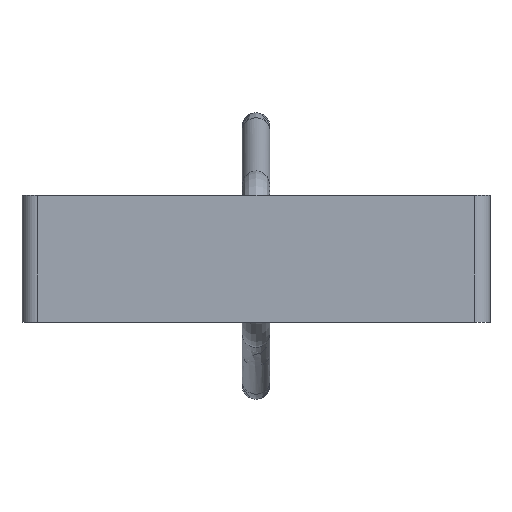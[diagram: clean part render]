
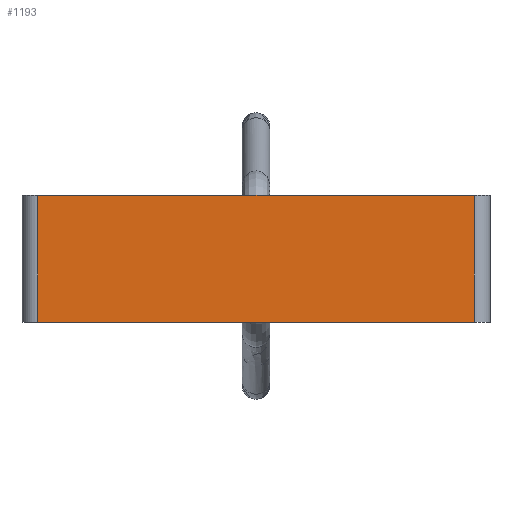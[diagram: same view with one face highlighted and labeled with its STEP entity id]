
A CAD part, front view. The second image highlights one B-rep face of the part: STEP entity #1193.
In plain terms, the highlighted planar face has unit normal (0, -1, 0).
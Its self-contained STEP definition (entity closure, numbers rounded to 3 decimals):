
#7 = EDGE_CURVE ( 'NONE', #749, #590, #781, .T. ) ;
#54 = CARTESIAN_POINT ( 'NONE',  ( -29.5, -4., 8. ) ) ;
#250 = CARTESIAN_POINT ( 'NONE',  ( -27.5, -4., 8. ) ) ;
#288 = LINE ( 'NONE', #1697, #1425 ) ;
#313 = ORIENTED_EDGE ( 'NONE', *, *, #7, .T. ) ;
#374 = VECTOR ( 'NONE', #971, 1000. ) ;
#405 = PLANE ( 'NONE',  #1467 ) ;
#425 = ORIENTED_EDGE ( 'NONE', *, *, #1352, .T. ) ;
#532 = VECTOR ( 'NONE', #867, 1000. ) ;
#580 = VERTEX_POINT ( 'NONE', #250 ) ;
#590 = VERTEX_POINT ( 'NONE', #1110 ) ;
#729 = VECTOR ( 'NONE', #872, 1000. ) ;
#730 = VERTEX_POINT ( 'NONE', #1603 ) ;
#749 = VERTEX_POINT ( 'NONE', #1432 ) ;
#781 = LINE ( 'NONE', #857, #532 ) ;
#857 = CARTESIAN_POINT ( 'NONE',  ( 27.5, -4., 8. ) ) ;
#867 = DIRECTION ( 'NONE',  ( 0., 0., 1. ) ) ;
#872 = DIRECTION ( 'NONE',  ( 1., 0., 0. ) ) ;
#971 = DIRECTION ( 'NONE',  ( 0., 0., -1. ) ) ;
#998 = ORIENTED_EDGE ( 'NONE', *, *, #1406, .T. ) ;
#1059 = CARTESIAN_POINT ( 'NONE',  ( -29.5, -4., 8. ) ) ;
#1110 = CARTESIAN_POINT ( 'NONE',  ( 27.5, -4., 8. ) ) ;
#1154 = CARTESIAN_POINT ( 'NONE',  ( -27.5, -4., 8. ) ) ;
#1193 = ADVANCED_FACE ( 'NONE', ( #1326 ), #405, .F. ) ;
#1239 = LINE ( 'NONE', #1059, #729 ) ;
#1251 = EDGE_LOOP ( 'NONE', ( #425, #313, #1409, #998 ) ) ;
#1326 = FACE_OUTER_BOUND ( 'NONE', #1251, .T. ) ;
#1331 = EDGE_CURVE ( 'NONE', #580, #590, #1239, .T. ) ;
#1340 = LINE ( 'NONE', #1154, #374 ) ;
#1352 = EDGE_CURVE ( 'NONE', #730, #749, #288, .T. ) ;
#1406 = EDGE_CURVE ( 'NONE', #580, #730, #1340, .T. ) ;
#1409 = ORIENTED_EDGE ( 'NONE', *, *, #1331, .F. ) ;
#1425 = VECTOR ( 'NONE', #1521, 1000. ) ;
#1432 = CARTESIAN_POINT ( 'NONE',  ( 27.5, -4., -8. ) ) ;
#1458 = DIRECTION ( 'NONE',  ( 0., 0., 1. ) ) ;
#1467 = AXIS2_PLACEMENT_3D ( 'NONE', #54, #1633, #1458 ) ;
#1521 = DIRECTION ( 'NONE',  ( 1., 0., 0. ) ) ;
#1603 = CARTESIAN_POINT ( 'NONE',  ( -27.5, -4., -8. ) ) ;
#1633 = DIRECTION ( 'NONE',  ( 0., 1., 0. ) ) ;
#1697 = CARTESIAN_POINT ( 'NONE',  ( -29.5, -4., -8. ) ) ;
